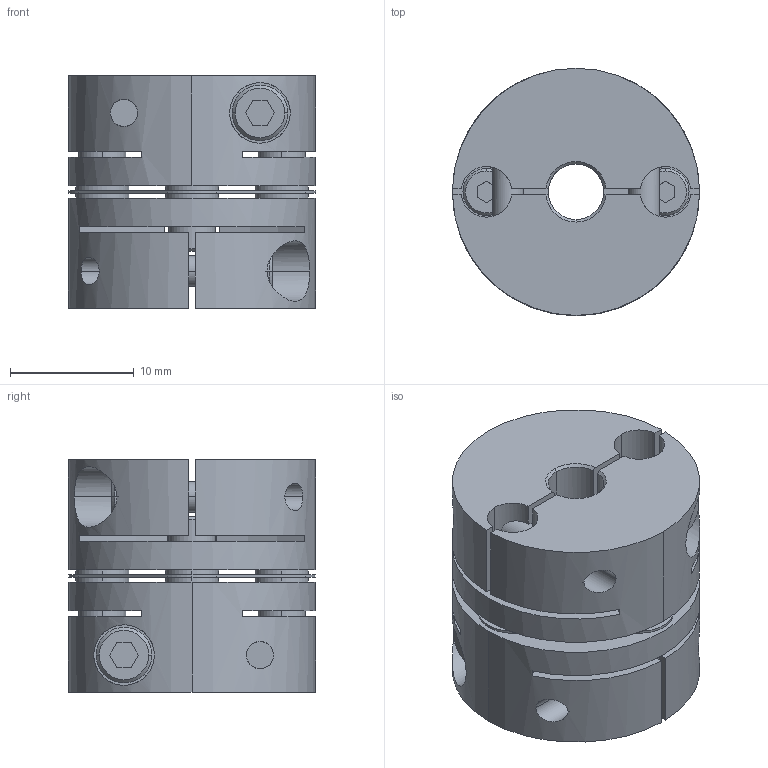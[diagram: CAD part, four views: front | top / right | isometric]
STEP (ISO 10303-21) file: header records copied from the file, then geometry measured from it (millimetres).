
FILE_DESCRIPTION((''),'2;1');
FILE_NAME('LAS-20C-4.5×5.stp','2016-04-21T12:03:53',(''),(''),'AutoCAD STEP 2000i','AutoCAD 2000i',', , ');
FILE_SCHEMA(('CONFIG_CONTROL_DESIGN'));
Length unit declared in the file: millimetre
Products named in the file (5): LAS-20C-4×4; 忣兜1; LA-2002-D04-1; LA-2002-D04; LAS20-ITA
Assembly tree (4 placements, depth 2):
  LAS-20C-4×4
    忣兜1
    LA-2002-D04-1
    LA-2002-D04
    LAS20-ITA
Bounding box: 20 x 20 x 18.8 mm (x, y, z)
Volume: 4683.2 mm3; surface area: 4572.8 mm2
Topology: 1 solids, 1 shells, 236 faces, 624 edges, 408 vertices
Faces by surface type: plane 112, cylinder 96, cone 28
Entity records: 8203 total; most frequent: CARTESIAN_POINT 2009, DIRECTION 1302, ORIENTED_EDGE 1248, EDGE_CURVE 624, AXIS2_PLACEMENT_3D 477, VERTEX_POINT 408, VECTOR 348, LINE 348
